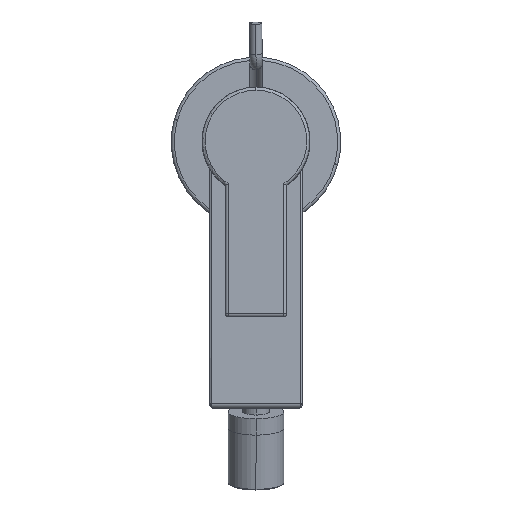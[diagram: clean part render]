
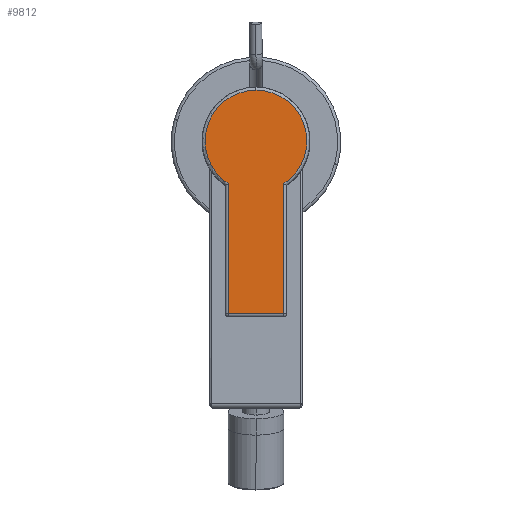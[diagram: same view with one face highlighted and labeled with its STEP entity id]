
A CAD part, top view. The second image highlights one B-rep face of the part: STEP entity #9812.
In plain terms, the highlighted planar face has unit normal (0, 0, 1) as drawn and (0, 0, -1) by its records, which use the part's own axes.
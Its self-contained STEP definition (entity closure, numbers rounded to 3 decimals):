
#1273 = VERTEX_POINT ( 'NONE', #9708 ) ;
#1318 = DIRECTION ( 'NONE',  ( 0., 0., -1. ) ) ;
#2030 = EDGE_CURVE ( 'NONE', #12052, #1273, #22857, .T. ) ;
#2425 = AXIS2_PLACEMENT_3D ( 'NONE', #15487, #1318, #22727 ) ;
#2877 = PLANE ( 'NONE',  #2425 ) ;
#3603 = AXIS2_PLACEMENT_3D ( 'NONE', #13058, #20127, #19983 ) ;
#3643 = DIRECTION ( 'NONE',  ( -1., 0., 0. ) ) ;
#4334 = VERTEX_POINT ( 'NONE', #11392 ) ;
#4422 = CIRCLE ( 'NONE', #18346, 16.5 ) ;
#4554 = VERTEX_POINT ( 'NONE', #8073 ) ;
#6197 = ORIENTED_EDGE ( 'NONE', *, *, #7804, .T. ) ;
#6591 = VERTEX_POINT ( 'NONE', #9877 ) ;
#7804 = EDGE_CURVE ( 'NONE', #1273, #4554, #17861, .T. ) ;
#8073 = CARTESIAN_POINT ( 'NONE',  ( 13.829, -9., -17.7 ) ) ;
#8155 = DIRECTION ( 'NONE',  ( 1., 0., 0. ) ) ;
#8726 = CARTESIAN_POINT ( 'NONE',  ( 56., -9., -17.7 ) ) ;
#8879 = CARTESIAN_POINT ( 'NONE',  ( 56., 9., -17.7 ) ) ;
#8902 = EDGE_CURVE ( 'NONE', #4334, #12052, #15480, .T. ) ;
#9352 = EDGE_CURVE ( 'NONE', #4554, #6591, #21315, .T. ) ;
#9708 = CARTESIAN_POINT ( 'NONE',  ( 56., -9., -17.7 ) ) ;
#9812 = ADVANCED_FACE ( 'NONE', ( #11560 ), #2877, .T. ) ;
#9877 = CARTESIAN_POINT ( 'NONE',  ( -16.5, 0., -17.7 ) ) ;
#10835 = ORIENTED_EDGE ( 'NONE', *, *, #8902, .T. ) ;
#10908 = ORIENTED_EDGE ( 'NONE', *, *, #2030, .T. ) ;
#11392 = CARTESIAN_POINT ( 'NONE',  ( 13.829, 9., -17.7 ) ) ;
#11560 = FACE_OUTER_BOUND ( 'NONE', #11860, .T. ) ;
#11860 = EDGE_LOOP ( 'NONE', ( #10835, #10908, #6197, #22995, #20955 ) ) ;
#12052 = VERTEX_POINT ( 'NONE', #8879 ) ;
#12588 = VECTOR ( 'NONE', #3643, 1000. ) ;
#13058 = CARTESIAN_POINT ( 'NONE',  ( 0., 0., -17.7 ) ) ;
#14981 = CARTESIAN_POINT ( 'NONE',  ( 0., 9., -17.7 ) ) ;
#15480 = LINE ( 'NONE', #14981, #19958 ) ;
#15487 = CARTESIAN_POINT ( 'NONE',  ( 0., 0., -17.7 ) ) ;
#15922 = DIRECTION ( 'NONE',  ( -1., 0., 0. ) ) ;
#16178 = CARTESIAN_POINT ( 'NONE',  ( 0., 0., -17.7 ) ) ;
#16188 = CARTESIAN_POINT ( 'NONE',  ( 0., -9., -17.7 ) ) ;
#17861 = LINE ( 'NONE', #16188, #12588 ) ;
#18346 = AXIS2_PLACEMENT_3D ( 'NONE', #16178, #19763, #15922 ) ;
#19490 = VECTOR ( 'NONE', #22991, 1000. ) ;
#19763 = DIRECTION ( 'NONE',  ( 0., 0., -1. ) ) ;
#19958 = VECTOR ( 'NONE', #8155, 1000. ) ;
#19983 = DIRECTION ( 'NONE',  ( -1., 0., 0. ) ) ;
#20127 = DIRECTION ( 'NONE',  ( 0., 0., -1. ) ) ;
#20690 = EDGE_CURVE ( 'NONE', #6591, #4334, #4422, .T. ) ;
#20955 = ORIENTED_EDGE ( 'NONE', *, *, #20690, .T. ) ;
#21315 = CIRCLE ( 'NONE', #3603, 16.5 ) ;
#22727 = DIRECTION ( 'NONE',  ( -1., 0., 0. ) ) ;
#22857 = LINE ( 'NONE', #8726, #19490 ) ;
#22991 = DIRECTION ( 'NONE',  ( 0., -1., 0. ) ) ;
#22995 = ORIENTED_EDGE ( 'NONE', *, *, #9352, .T. ) ;
